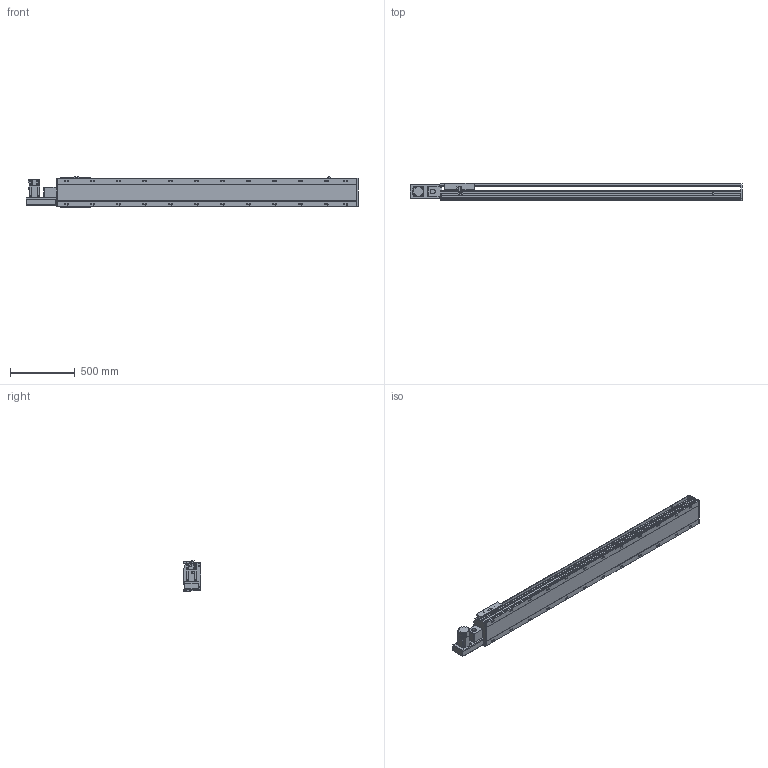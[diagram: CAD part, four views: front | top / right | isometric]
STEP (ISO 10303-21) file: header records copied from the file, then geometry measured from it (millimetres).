
FILE_DESCRIPTION(/* description */ ('STEP AP214'),/* implementation_level */ '2;1');
FILE_NAME(/* name */ 'PBS220-P40-S1950-L-T75-C1-N(0)',/* time_stamp */ '2022-06-11T09:56:55+02:00',/* author */ ('License CC BY-ND 4.0'),/* organization */ ('CADENAS'),/* preprocessor_version */ 'ST-DEVELOPER v18.102',/* originating_system */ 'PARTsolutions',/* authorisation */ ' ');
FILE_SCHEMA (('AUTOMOTIVE_DESIGN {1 0 10303 214 3 1 1}'));
Length unit declared in the file: millimetre
Products named in the file (7): PBS220-P40-S1950-L-T75-C1-N(0); PBS220_sensor; PBS220_plant; PBS220_sliser; T75-p1; PBS220T-L_motors; PBS220-S1950()_body
Assembly tree (8 placements, depth 2):
  PBS220-P40-S1950-L-T75-C1-N(0)
    PBS220_sensor  x3
    PBS220_plant
    PBS220_sliser
    T75-p1
    PBS220T-L_motors
    PBS220-S1950()_body
Bounding box: 2556 x 134 x 238.5 mm (x, y, z)
Volume: 34252522.7 mm3; surface area: 3188715 mm2
Topology: 8 solids, 8 shells, 962 faces, 2508 edges, 1630 vertices
Faces by surface type: plane 614, cylinder 300, cone 48
Full cylindrical faces by diameter (mm): 2.013 x4, 4.5 x14, 4.917 x4, 6 x7, 6.647 x8, 8 x10, 8.376 x24, 8.5 x24, 10 x6, 14 x24, 38 x2, 40 x1, 70 x1
Entity records: 26877 total; most frequent: CARTESIAN_POINT 4756, DIRECTION 4671, ORIENTED_EDGE 4250, EDGE_CURVE 2125, AXIS2_PLACEMENT_3D 1659, VERTEX_POINT 1480, LINE 1353, VECTOR 1353
